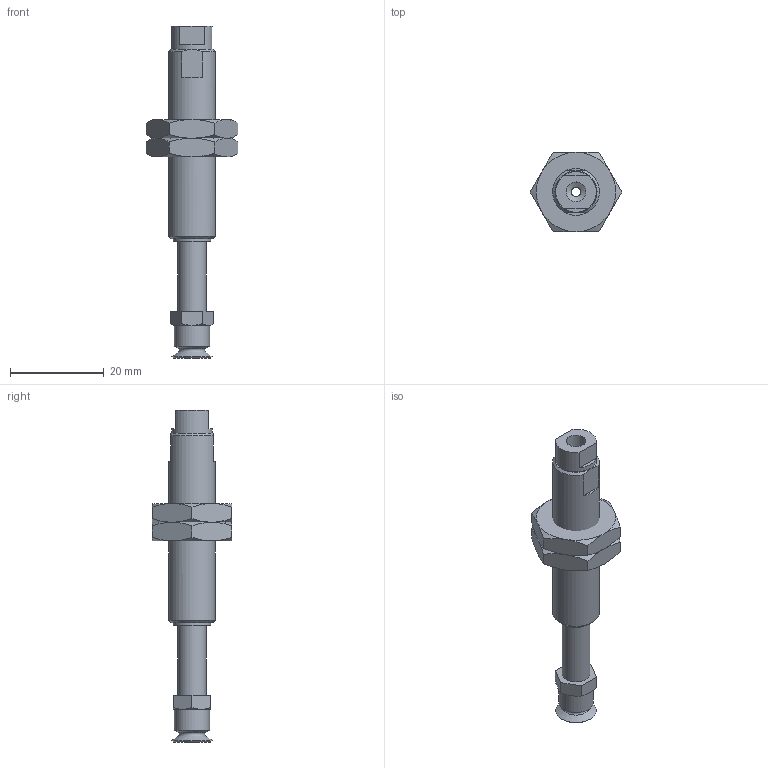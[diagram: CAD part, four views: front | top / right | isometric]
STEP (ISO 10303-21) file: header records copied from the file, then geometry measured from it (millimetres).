
FILE_DESCRIPTION(('STEP AP203'),'1');
FILE_NAME('-LB.stp','2025-10-10T05:48:41',(' '),(' '),'Spatial InterOp 3D',' ',' ');
FILE_SCHEMA(('CONFIG_CONTROL_DESIGN'));
Length unit declared in the file: millimetre
Products named in the file (8): BNABPFTH-8A-15-※-LB; NUT; __; BODY; TN-PS-10-M5; Setting screws-TN-PS-10-M5; BPFG-8A-※
Assembly tree (7 placements, depth 3):
  BNABPFTH-8A-15-※-LB
    NUT
    NUT
    __
    BODY
    TN-PS-10-M5
      Setting screws-TN-PS-10-M5
    BPFG-8A-※
Bounding box: 19.63 x 17 x 71 mm (x, y, z)
Volume: 5475 mm3; surface area: 4564.9 mm2
Topology: 6 solids, 6 shells, 126 faces, 268 edges, 161 vertices
Faces by surface type: plane 57, cone 41, cylinder 18, torus 9, bspline 1
Full cylindrical faces by diameter (mm): 2 x3, 3.9 x1, 4 x2, 4.2 x2, 5 x1, 6 x3, 7.5 x1, 8 x1, 8.7 x1, 9 x2, 10 x1
Entity records: 3637 total; most frequent: CARTESIAN_POINT 768, DIRECTION 522, ORIENTED_EDGE 444, AXIS2_PLACEMENT_3D 230, EDGE_CURVE 222, EDGE_LOOP 182, FACE_OUTER_BOUND 154, VERTEX_POINT 152
